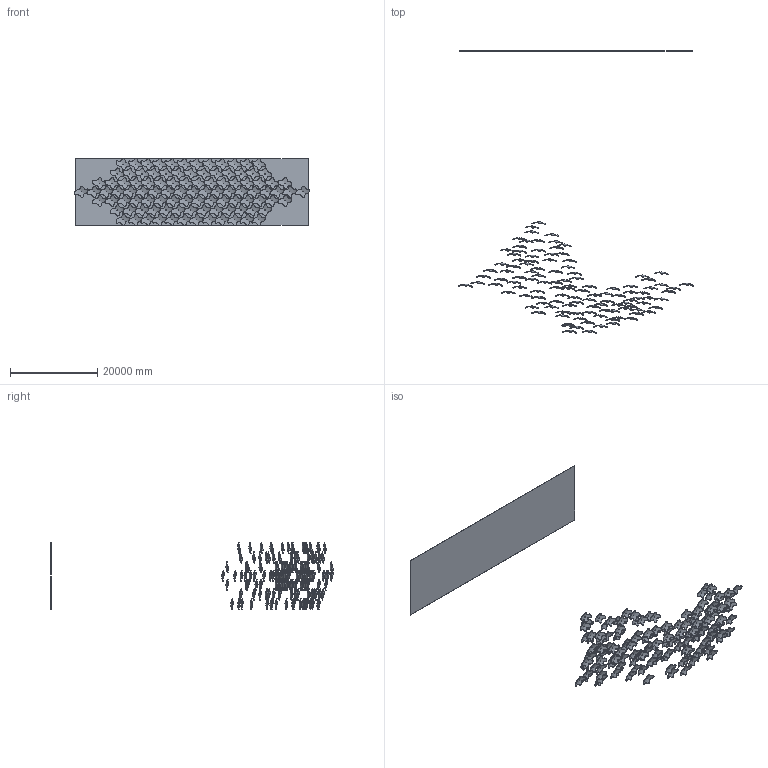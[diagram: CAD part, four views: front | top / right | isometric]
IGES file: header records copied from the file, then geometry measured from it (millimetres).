
Global section: file name: Tidal Art Glass Pendants Lamp-L210xW60xH250cm 3D; native system: AutoCAD 2022 - 简体中文 (Simplified Chinese),62HAuto; preprocessor: desk Translation Framework DWG producer (atf_dwg_producer); organization: unknown; date: 20250808.174327; units: inch
Bounding box: 53901.98 x 64772.43 x 15378.1 mm (x, y, z)
Volume: 171654416062.9 mm3; surface area: 3322566170.8 mm2
Topology: 171 solids, 171 shells, 1196 faces, 2963 edges, 2171 vertices
Faces by surface type: bspline 1196
